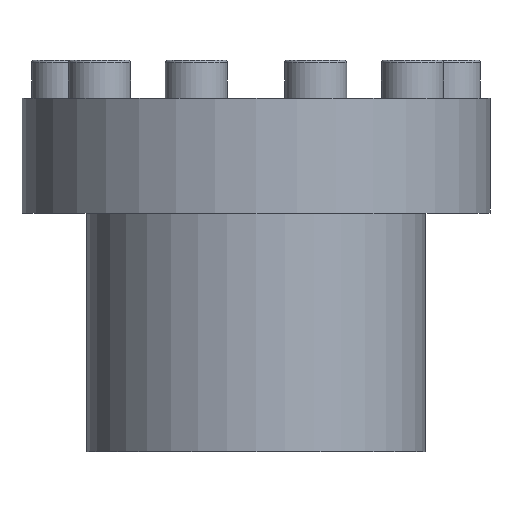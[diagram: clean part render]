
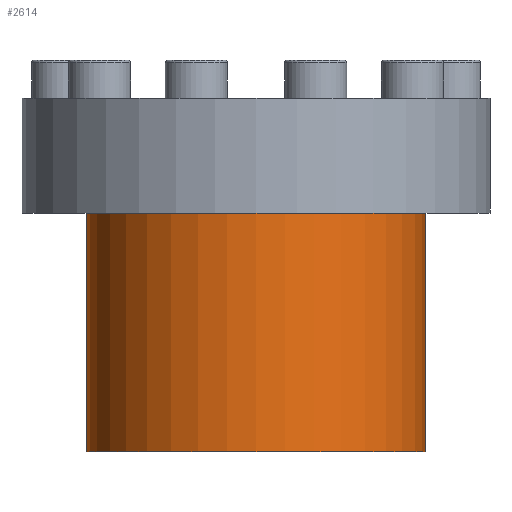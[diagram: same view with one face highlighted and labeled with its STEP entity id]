
A CAD part, front view. The second image highlights one B-rep face of the part: STEP entity #2614.
In plain terms, the highlighted cylindrical face has radius 35.4 mm (diameter 70.8 mm), a partial arc.
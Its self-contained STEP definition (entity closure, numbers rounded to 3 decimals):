
#16 = CARTESIAN_POINT ( 'NONE',  ( 0., 0., -74. ) ) ;
#132 = LINE ( 'NONE', #2320, #3106 ) ;
#153 = CARTESIAN_POINT ( 'NONE',  ( 35.4, 0., -74. ) ) ;
#240 = ORIENTED_EDGE ( 'NONE', *, *, #3260, .F. ) ;
#576 = AXIS2_PLACEMENT_3D ( 'NONE', #16, #2609, #594 ) ;
#594 = DIRECTION ( 'NONE',  ( 1., 0., 0. ) ) ;
#597 = VERTEX_POINT ( 'NONE', #153 ) ;
#851 = CARTESIAN_POINT ( 'NONE',  ( -35.4, 0., 0. ) ) ;
#937 = EDGE_CURVE ( 'NONE', #597, #2350, #132, .T. ) ;
#1007 = VERTEX_POINT ( 'NONE', #2583 ) ;
#1182 = EDGE_LOOP ( 'NONE', ( #2054, #1735, #3298, #240 ) ) ;
#1215 = CYLINDRICAL_SURFACE ( 'NONE', #3149, 35.4 ) ;
#1512 = FACE_OUTER_BOUND ( 'NONE', #1182, .T. ) ;
#1735 = ORIENTED_EDGE ( 'NONE', *, *, #2535, .T. ) ;
#2038 = DIRECTION ( 'NONE',  ( 0., 0., 1. ) ) ;
#2054 = ORIENTED_EDGE ( 'NONE', *, *, #3709, .F. ) ;
#2147 = VECTOR ( 'NONE', #3716, 1000. ) ;
#2226 = CARTESIAN_POINT ( 'NONE',  ( 35.4, 0., -24. ) ) ;
#2287 = CARTESIAN_POINT ( 'NONE',  ( 0., 0., -24. ) ) ;
#2308 = CIRCLE ( 'NONE', #576, 35.4 ) ;
#2313 = DIRECTION ( 'NONE',  ( 0., 0., 1. ) ) ;
#2320 = CARTESIAN_POINT ( 'NONE',  ( 35.4, 0., 0. ) ) ;
#2350 = VERTEX_POINT ( 'NONE', #2226 ) ;
#2359 = DIRECTION ( 'NONE',  ( 0., 0., 1. ) ) ;
#2535 = EDGE_CURVE ( 'NONE', #3300, #597, #2308, .T. ) ;
#2558 = CARTESIAN_POINT ( 'NONE',  ( -35.4, 0., -74. ) ) ;
#2583 = CARTESIAN_POINT ( 'NONE',  ( -35.4, 0., -24. ) ) ;
#2594 = LINE ( 'NONE', #851, #2147 ) ;
#2609 = DIRECTION ( 'NONE',  ( 0., 0., 1. ) ) ;
#2614 = ADVANCED_FACE ( 'NONE', ( #1512 ), #1215, .T. ) ;
#2643 = CIRCLE ( 'NONE', #2867, 35.4 ) ;
#2867 = AXIS2_PLACEMENT_3D ( 'NONE', #2287, #2313, #3140 ) ;
#2912 = DIRECTION ( 'NONE',  ( 1., 0., 0. ) ) ;
#3106 = VECTOR ( 'NONE', #2038, 1000. ) ;
#3140 = DIRECTION ( 'NONE',  ( 1., 0., 0. ) ) ;
#3149 = AXIS2_PLACEMENT_3D ( 'NONE', #3487, #2359, #2912 ) ;
#3260 = EDGE_CURVE ( 'NONE', #1007, #2350, #2643, .T. ) ;
#3298 = ORIENTED_EDGE ( 'NONE', *, *, #937, .T. ) ;
#3300 = VERTEX_POINT ( 'NONE', #2558 ) ;
#3487 = CARTESIAN_POINT ( 'NONE',  ( 0., 0., 0. ) ) ;
#3709 = EDGE_CURVE ( 'NONE', #3300, #1007, #2594, .T. ) ;
#3716 = DIRECTION ( 'NONE',  ( 0., 0., 1. ) ) ;
